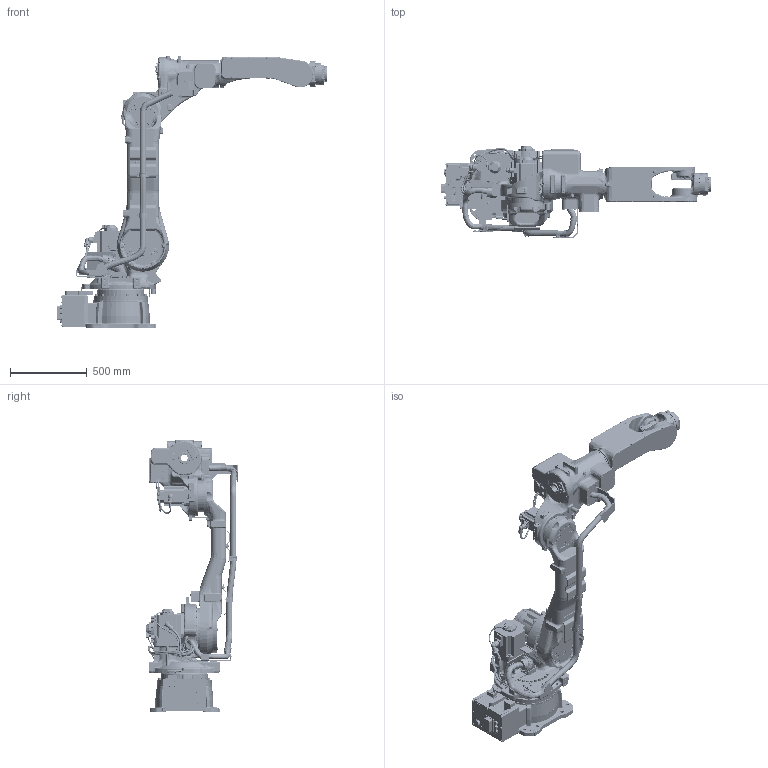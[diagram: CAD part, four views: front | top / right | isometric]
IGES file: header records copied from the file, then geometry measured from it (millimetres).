
Start section: SolidWorks IGES file using analytic representation for surfaces
Global section: file name: C:\Users\jezerd\OneDrive - Yaskawa Europe GmbH - EMEA\Desktop\Temp\GP35H\Without range\GP35H.IGS; native system: SolidWorks 2024; preprocessor: SolidWorks 2024; author: jezerd; date: 240910.134227; units: millimetre
Bounding box: 1759.85 x 604.68 x 1780 mm (x, y, z)
Surface area: 6129052.3 mm2 (no closed solid volume)
Topology: 0 solids, 0 shells, 10591 faces, 147335 edges, 147158 vertices
Faces by surface type: bspline 5810, revolution 4781
